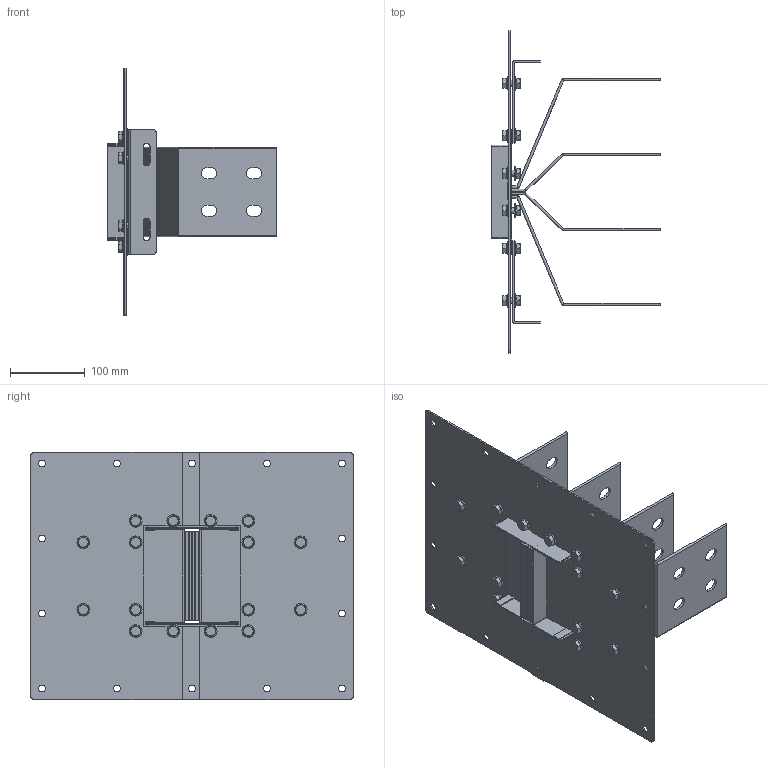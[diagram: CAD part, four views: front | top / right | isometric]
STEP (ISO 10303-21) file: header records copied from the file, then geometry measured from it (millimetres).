
FILE_DESCRIPTION(('CATIA V5 STEP','CAx-IF Rec.Pracs.--- Model Styling and Organization---1.5--- 2016-08-15','CAx-IF Rec.Pracs.---Supplemental Geometry---1.0---2011-11-01','CAx-IF Rec.Pracs.--- Composite Materials ---1.1---2010-07-15'),'2;1');
FILE_NAME('K:\COSCN 2011\32372311_RiduzioneSezioniBarre\03_Studio\__Modelli semplificati\XCP_UB semplificati per studi\XCP-HP_UB_4C_Pe_STD_Assieme\Al\XCP-HP_UB_4C_Pe_S_Assieme - 800A Al\XCP-HP_UB_4C_Pe_S_Assieme - 800A Al.stp','2025-05-12T09:27:45+00:00',('Utente Bticino'),('Bticino S.p.A.'),'CATIA Version 5-6 Release 2020 SP5','CATIA V5 STEP AP214 v2','none');
FILE_SCHEMA(('AUTOMOTIVE_DESIGN { 1 0 10303 214 1 1 1 1 }'));
Length unit declared in the file: millimetre
Products named in the file (7): XCP-HP_UB_4C_Pe_S_Assieme - 800A Al; XCP-HP_UB_4C_Pe_S_PaccoBarre_800A Al; XCP-HP_UB_4C_Pe_S_Lamiere_800A Al; Viteria UB H130; Ass Vite+dado M8; Steel hex flanged SCREW M12x16; Steel hex flanged NUT M8
Assembly tree (21 placements, depth 4):
  XCP-HP_UB_4C_Pe_S_Assieme - 800A Al
    XCP-HP_UB_4C_Pe_S_PaccoBarre_800A Al
    XCP-HP_UB_4C_Pe_S_Lamiere_800A Al
    Viteria UB H130
      Ass Vite+dado M8  x16
        Steel hex flanged SCREW M12x16
        Steel hex flanged NUT M8
Bounding box: 225 x 430 x 330 mm (x, y, z)
Volume: 920933.3 mm3; surface area: 754828 mm2
Topology: 44 solids, 44 shells, 1146 faces, 2814 edges, 1788 vertices
Faces by surface type: plane 478, cylinder 380, cone 128, bspline 128, torus 32
Entity records: 14841 total; most frequent: CARTESIAN_POINT 3447, ORIENTED_EDGE 2448, DIRECTION 1916, EDGE_CURVE 1224, AXIS2_PLACEMENT_3D 815, VERTEX_POINT 798, VECTOR 722, LINE 722
